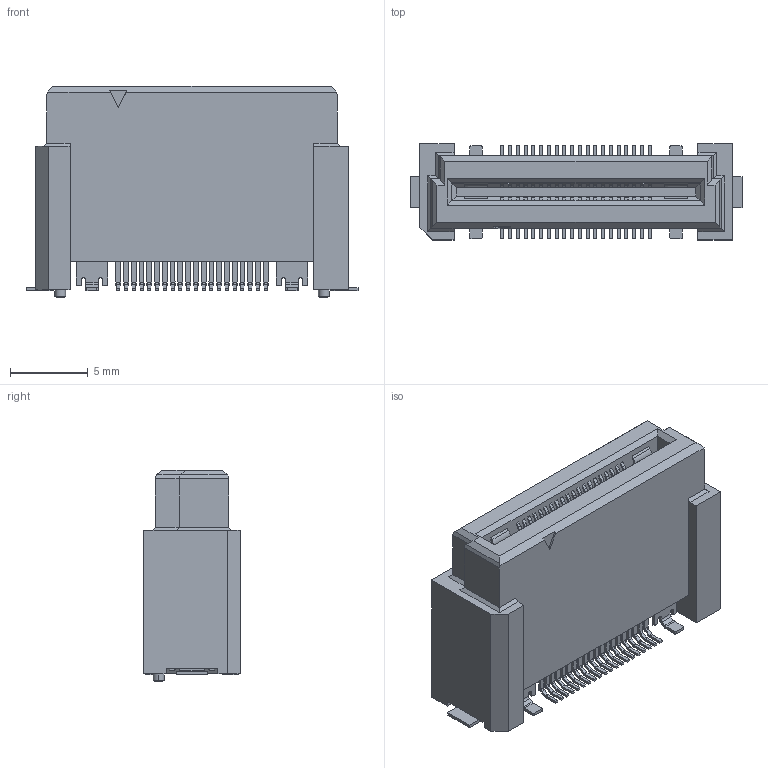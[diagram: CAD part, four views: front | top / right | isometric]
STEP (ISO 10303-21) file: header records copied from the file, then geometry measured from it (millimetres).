
FILE_DESCRIPTION(('Creo Elements/Direct Modeling STEP Export'),'2;1');
FILE_NAME('P3E816_DT11E-040S-15-T.stp','2024-03-13T11:07:11',(''),(''),'Creo Elements/Direct Modeling STEP processor for AP214 (Solid Model)','Creo Elements/Direct Modeling 20.6 25-Mar-2023 (C) Parametric Technology GmbH','');
FILE_SCHEMA(('AUTOMOTIVE_DESIGN { 1 0 10303 214 1 1 1 1 }'));
Length unit declared in the file: millimetre
Products named in the file (2): P3E816_DT11E-040S-15-T
Assembly tree (1 placements, depth 2):
  P3E816_DT11E-040S-15-T
    P3E816_DT11E-040S-15-T
Bounding box: 21.4 x 6.2 x 13.63 mm (x, y, z)
Volume: 1067.2 mm3; surface area: 1156.7 mm2
Topology: 1 solids, 1 shells, 1465 faces, 4124 edges, 2710 vertices
Faces by surface type: plane 1149, cylinder 304, bspline 8, cone 4
Entity records: 47309 total; most frequent: CARTESIAN_POINT 9049, ORIENTED_EDGE 8248, DIRECTION 7564, EDGE_CURVE 4124, VECTOR 3290, LINE 3290, VERTEX_POINT 2710, AXIS2_PLACEMENT_3D 2137
